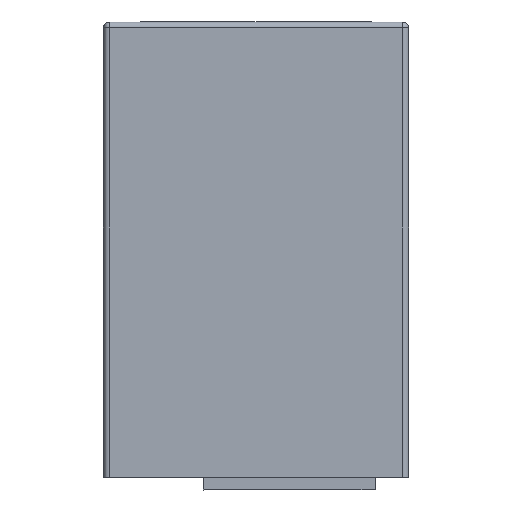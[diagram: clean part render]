
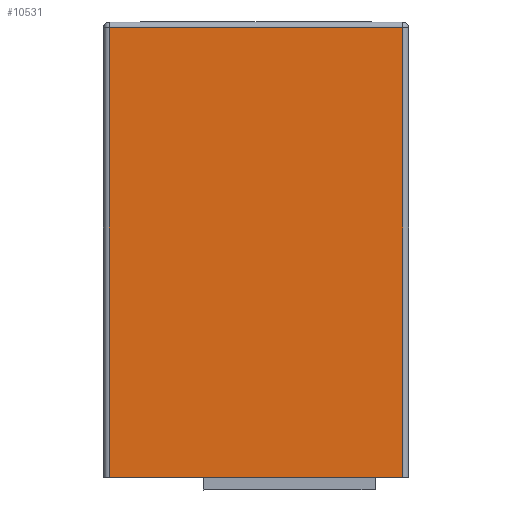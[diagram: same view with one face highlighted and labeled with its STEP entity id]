
A CAD part, left-side view. The second image highlights one B-rep face of the part: STEP entity #10531.
In plain terms, the highlighted planar face has unit normal (-1, 0, 0).
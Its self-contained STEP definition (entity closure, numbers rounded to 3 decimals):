
#64 = LINE ( 'NONE', #6854, #730 ) ;
#461 = ORIENTED_EDGE ( 'NONE', *, *, #8704, .F. ) ;
#577 = CARTESIAN_POINT ( 'NONE',  ( -30.848, -18.502, 38.651 ) ) ;
#699 = LINE ( 'NONE', #10992, #9759 ) ;
#730 = VECTOR ( 'NONE', #1717, 1000. ) ;
#1398 = EDGE_CURVE ( 'NONE', #9548, #1676, #699, .T. ) ;
#1676 = VERTEX_POINT ( 'NONE', #6018 ) ;
#1717 = DIRECTION ( 'NONE',  ( 0., 1., 0. ) ) ;
#1776 = DIRECTION ( 'NONE',  ( 0., 0., -1. ) ) ;
#2124 = CARTESIAN_POINT ( 'NONE',  ( -30.848, -3.102, 38.651 ) ) ;
#2288 = CARTESIAN_POINT ( 'NONE',  ( -30.848, -3.102, 38.651 ) ) ;
#2947 = PLANE ( 'NONE',  #5981 ) ;
#3558 = VECTOR ( 'NONE', #9033, 1000. ) ;
#4376 = LINE ( 'NONE', #2288, #3558 ) ;
#4743 = ORIENTED_EDGE ( 'NONE', *, *, #1398, .T. ) ;
#5056 = CARTESIAN_POINT ( 'NONE',  ( -30.848, -18.502, 15.069 ) ) ;
#5319 = VECTOR ( 'NONE', #8284, 1000. ) ;
#5385 = DIRECTION ( 'NONE',  ( 0., 0., -1. ) ) ;
#5591 = LINE ( 'NONE', #9934, #5319 ) ;
#5981 = AXIS2_PLACEMENT_3D ( 'NONE', #10623, #7182, #5385 ) ;
#6018 = CARTESIAN_POINT ( 'NONE',  ( -30.848, -3.102, 15.069 ) ) ;
#6319 = ORIENTED_EDGE ( 'NONE', *, *, #10662, .T. ) ;
#6399 = FACE_OUTER_BOUND ( 'NONE', #10195, .T. ) ;
#6854 = CARTESIAN_POINT ( 'NONE',  ( -30.848, -18.802, 15.069 ) ) ;
#6944 = VERTEX_POINT ( 'NONE', #577 ) ;
#7182 = DIRECTION ( 'NONE',  ( 1., 0., 0. ) ) ;
#8284 = DIRECTION ( 'NONE',  ( 0., 0., 1. ) ) ;
#8704 = EDGE_CURVE ( 'NONE', #9236, #1676, #64, .T. ) ;
#9033 = DIRECTION ( 'NONE',  ( 0., 1., 0. ) ) ;
#9236 = VERTEX_POINT ( 'NONE', #5056 ) ;
#9548 = VERTEX_POINT ( 'NONE', #2124 ) ;
#9759 = VECTOR ( 'NONE', #1776, 1000. ) ;
#9934 = CARTESIAN_POINT ( 'NONE',  ( -30.848, -18.502, 36.96 ) ) ;
#10195 = EDGE_LOOP ( 'NONE', ( #6319, #10845, #4743, #461 ) ) ;
#10531 = ADVANCED_FACE ( 'NONE', ( #6399 ), #2947, .F. ) ;
#10623 = CARTESIAN_POINT ( 'NONE',  ( -30.848, -18.802, 36.96 ) ) ;
#10662 = EDGE_CURVE ( 'NONE', #9236, #6944, #5591, .T. ) ;
#10687 = EDGE_CURVE ( 'NONE', #6944, #9548, #4376, .T. ) ;
#10845 = ORIENTED_EDGE ( 'NONE', *, *, #10687, .T. ) ;
#10992 = CARTESIAN_POINT ( 'NONE',  ( -30.848, -3.102, 36.96 ) ) ;
